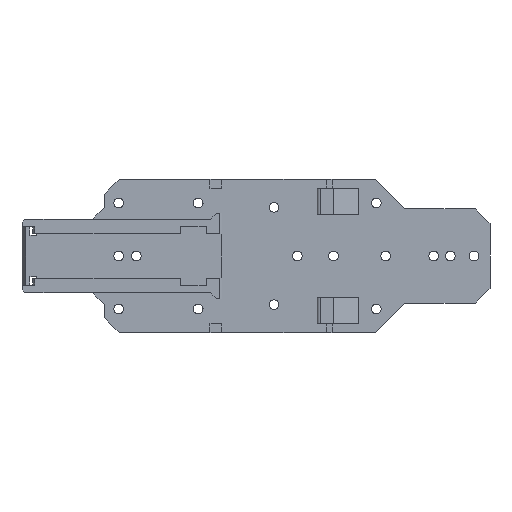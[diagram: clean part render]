
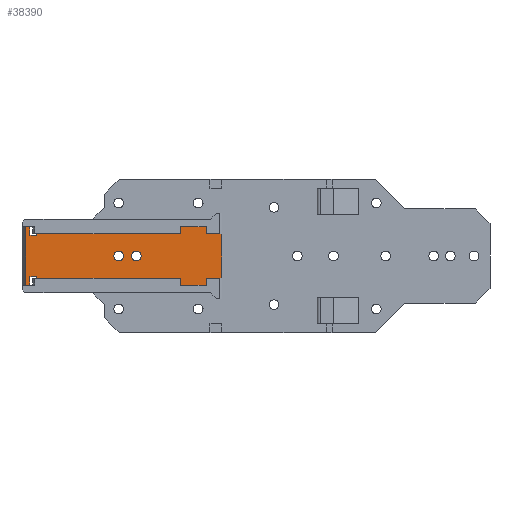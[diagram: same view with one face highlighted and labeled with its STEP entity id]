
A CAD part, front view. The second image highlights one B-rep face of the part: STEP entity #38390.
In plain terms, the highlighted planar face has unit normal (0, -1, 0).
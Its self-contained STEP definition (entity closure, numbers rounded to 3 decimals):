
#1040=CARTESIAN_POINT('',(549.253,285.963,
18.85));
#1050=VERTEX_POINT('',#1040);
#1380=CARTESIAN_POINT('',(563.253,285.963,
18.85));
#1390=VERTEX_POINT('',#1380);
#1420=CARTESIAN_POINT('',(0.,285.963,18.85));
#1430=DIRECTION('',(1.,0.,0.));
#1440=VECTOR('',#1430,1.);
#1450=LINE('',#1420,#1440);
#1460=EDGE_CURVE('',#1050,#1390,#1450,.T.);
#6620=CARTESIAN_POINT('',(614.407,285.963,
15.895));
#6630=VERTEX_POINT('',#6620);
#6660=CARTESIAN_POINT('',(0.,285.963,15.895));
#6670=DIRECTION('',(-1.,0.,0.));
#6680=VECTOR('',#6670,1.);
#6690=LINE('',#6660,#6680);
#6700=CARTESIAN_POINT('',(612.207,285.963,
15.895));
#6710=VERTEX_POINT('',#6700);
#6720=EDGE_CURVE('',#6630,#6710,#6690,.T.);
#23770=CARTESIAN_POINT('',(612.207,285.963,0.));
#23780=DIRECTION('',(0.,0.,1.));
#23790=VECTOR('',#23780,1.);
#23800=LINE('',#23770,#23790);
#23810=CARTESIAN_POINT('',(612.207,285.963,
18.75));
#23820=VERTEX_POINT('',#23810);
#23830=EDGE_CURVE('',#6710,#23820,#23800,.T.);
#24330=CARTESIAN_POINT('',(549.253,285.963,0.));
#24340=DIRECTION('',(0.,0.,1.));
#24350=VECTOR('',#24340,1.);
#24360=LINE('',#24330,#24350);
#24370=CARTESIAN_POINT('',(549.253,285.963,
-1.15));
#24380=VERTEX_POINT('',#24370);
#24390=EDGE_CURVE('',#24380,#1050,#24360,.T.);
#27520=CARTESIAN_POINT('',(563.253,285.963,
1.25));
#27530=VERTEX_POINT('',#27520);
#27680=CARTESIAN_POINT('',(563.253,285.963,
-1.15));
#27690=VERTEX_POINT('',#27680);
#27720=CARTESIAN_POINT('',(563.253,285.963,0.));
#27730=DIRECTION('',(0.,0.,-1.));
#27740=VECTOR('',#27730,1.);
#27750=LINE('',#27720,#27740);
#27760=EDGE_CURVE('',#27530,#27690,#27750,.T.);
#28070=CARTESIAN_POINT('',(615.89,285.963,
-1.05));
#28080=VERTEX_POINT('',#28070);
#28110=CARTESIAN_POINT('',(615.89,285.963,0.));
#28120=DIRECTION('',(0.,0.,-1.));
#28130=VECTOR('',#28120,1.);
#28140=LINE('',#28110,#28130);
#28150=CARTESIAN_POINT('',(615.89,285.963,
18.75));
#28160=VERTEX_POINT('',#28150);
#28170=EDGE_CURVE('',#28160,#28080,#28140,.T.);
#32030=CARTESIAN_POINT('',(565.553,285.963,
-1.05));
#32040=VERTEX_POINT('',#32030);
#32120=CARTESIAN_POINT('',(565.553,285.963,
1.25));
#32130=VERTEX_POINT('',#32120);
#32160=CARTESIAN_POINT('',(565.553,285.963,0.));
#32170=DIRECTION('',(0.,0.,1.));
#32180=VECTOR('',#32170,1.);
#32190=LINE('',#32160,#32180);
#32200=EDGE_CURVE('',#32040,#32130,#32190,.T.);
#32410=CARTESIAN_POINT('',(565.553,285.963,
16.45));
#32420=VERTEX_POINT('',#32410);
#32500=CARTESIAN_POINT('',(565.553,285.963,
18.75));
#32510=VERTEX_POINT('',#32500);
#32540=CARTESIAN_POINT('',(565.553,285.963,0.));
#32550=DIRECTION('',(0.,0.,-1.));
#32560=VECTOR('',#32550,1.);
#32570=LINE('',#32540,#32560);
#32580=EDGE_CURVE('',#32510,#32420,#32570,.T.);
#36440=CARTESIAN_POINT('',(0.,285.963,-1.15));
#36450=DIRECTION('',(-1.,0.,0.));
#36460=VECTOR('',#36450,1.);
#36470=LINE('',#36440,#36460);
#36480=EDGE_CURVE('',#27690,#24380,#36470,.T.);
#36750=CARTESIAN_POINT('',(0.,285.963,16.45));
#36760=DIRECTION('',(-1.,0.,0.));
#36770=VECTOR('',#36760,1.);
#36780=LINE('',#36750,#36770);
#36790=CARTESIAN_POINT('',(563.253,285.963,
16.45));
#36800=VERTEX_POINT('',#36790);
#36810=EDGE_CURVE('',#32420,#36800,#36780,.T.);
#37150=CARTESIAN_POINT('',(563.253,285.963,0.));
#37160=DIRECTION('',(0.,0.,-1.));
#37170=VECTOR('',#37160,1.);
#37180=LINE('',#37150,#37170);
#37190=EDGE_CURVE('',#1390,#36800,#37180,.T.);
#37310=CARTESIAN_POINT('',(572.647,285.963,
11.888));
#37320=DIRECTION('',(-0.,-1.,0.));
#37330=DIRECTION('',(-1.,0.,0.));
#37340=AXIS2_PLACEMENT_3D('',#37310,#37320,#37330);
#37350=PLANE('',#37340);
#37360=CARTESIAN_POINT('',(584.253,285.963,
8.85));
#37370=DIRECTION('',(0.,-1.,0.));
#37380=DIRECTION('',(0.,0.,-1.));
#37390=AXIS2_PLACEMENT_3D('',#37360,#37370,#37380);
#37400=CIRCLE('',#37390,1.65);
#37410=CARTESIAN_POINT('',(584.253,285.963,
7.2));
#37420=VERTEX_POINT('',#37410);
#37430=CARTESIAN_POINT('',(584.253,285.963,
10.5));
#37440=VERTEX_POINT('',#37430);
#37450=EDGE_CURVE('',#37420,#37440,#37400,.T.);
#37460=ORIENTED_EDGE('',*,*,#37450,.F.);
#37470=EDGE_CURVE('',#37440,#37420,#37400,.T.);
#37480=ORIENTED_EDGE('',*,*,#37470,.F.);
#37490=EDGE_LOOP('',(#37480,#37460));
#37500=FACE_BOUND('',#37490,.T.);
#37510=CARTESIAN_POINT('',(578.253,285.963,
8.85));
#37520=DIRECTION('',(0.,-1.,0.));
#37530=DIRECTION('',(0.,0.,-1.));
#37540=AXIS2_PLACEMENT_3D('',#37510,#37520,#37530);
#37550=CIRCLE('',#37540,1.65);
#37560=CARTESIAN_POINT('',(578.253,285.963,
7.2));
#37570=VERTEX_POINT('',#37560);
#37580=CARTESIAN_POINT('',(578.253,285.963,
10.5));
#37590=VERTEX_POINT('',#37580);
#37600=EDGE_CURVE('',#37570,#37590,#37550,.T.);
#37610=ORIENTED_EDGE('',*,*,#37600,.F.);
#37620=EDGE_CURVE('',#37590,#37570,#37550,.T.);
#37630=ORIENTED_EDGE('',*,*,#37620,.F.);
#37640=EDGE_LOOP('',(#37630,#37610));
#37650=FACE_BOUND('',#37640,.T.);
#37660=ORIENTED_EDGE('',*,*,#37190,.F.);
#37670=ORIENTED_EDGE('',*,*,#36810,.T.);
#37680=ORIENTED_EDGE('',*,*,#32580,.T.);
#37690=CARTESIAN_POINT('',(0.,285.963,18.75));
#37700=DIRECTION('',(1.,0.,0.));
#37710=VECTOR('',#37700,1.);
#37720=LINE('',#37690,#37710);
#37730=EDGE_CURVE('',#32510,#23820,#37720,.T.);
#37740=ORIENTED_EDGE('',*,*,#37730,.F.);
#37750=ORIENTED_EDGE('',*,*,#23830,.T.);
#37760=ORIENTED_EDGE('',*,*,#6720,.T.);
#37770=CARTESIAN_POINT('',(614.407,285.963,0.));
#37780=DIRECTION('',(0.,0.,-1.));
#37790=VECTOR('',#37780,1.);
#37800=LINE('',#37770,#37790);
#37810=CARTESIAN_POINT('',(614.407,285.963,
18.75));
#37820=VERTEX_POINT('',#37810);
#37830=EDGE_CURVE('',#37820,#6630,#37800,.T.);
#37840=ORIENTED_EDGE('',*,*,#37830,.T.);
#37850=EDGE_CURVE('',#37820,#28160,#37720,.T.);
#37860=ORIENTED_EDGE('',*,*,#37850,.F.);
#37870=ORIENTED_EDGE('',*,*,#28170,.F.);
#37880=CARTESIAN_POINT('',(0.,285.963,-1.05));
#37890=DIRECTION('',(-1.,0.,0.));
#37900=VECTOR('',#37890,1.);
#37910=LINE('',#37880,#37900);
#37920=CARTESIAN_POINT('',(614.407,285.963,
-1.05));
#37930=VERTEX_POINT('',#37920);
#37940=EDGE_CURVE('',#28080,#37930,#37910,.T.);
#37950=ORIENTED_EDGE('',*,*,#37940,.F.);
#37960=CARTESIAN_POINT('',(614.407,285.963,0.));
#37970=DIRECTION('',(0.,0.,1.));
#37980=VECTOR('',#37970,1.);
#37990=LINE('',#37960,#37980);
#38000=CARTESIAN_POINT('',(614.407,285.963,
1.805));
#38010=VERTEX_POINT('',#38000);
#38020=EDGE_CURVE('',#37930,#38010,#37990,.T.);
#38030=ORIENTED_EDGE('',*,*,#38020,.F.);
#38040=CARTESIAN_POINT('',(0.,285.963,1.805));
#38050=DIRECTION('',(-1.,0.,0.));
#38060=VECTOR('',#38050,1.);
#38070=LINE('',#38040,#38060);
#38080=CARTESIAN_POINT('',(612.207,285.963,
1.805));
#38090=VERTEX_POINT('',#38080);
#38100=EDGE_CURVE('',#38010,#38090,#38070,.T.);
#38110=ORIENTED_EDGE('',*,*,#38100,.F.);
#38120=CARTESIAN_POINT('',(612.207,285.963,0.));
#38130=DIRECTION('',(0.,0.,-1.));
#38140=VECTOR('',#38130,1.);
#38150=LINE('',#38120,#38140);
#38160=CARTESIAN_POINT('',(612.207,285.963,
-1.05));
#38170=VERTEX_POINT('',#38160);
#38180=EDGE_CURVE('',#38090,#38170,#38150,.T.);
#38190=ORIENTED_EDGE('',*,*,#38180,.F.);
#38200=CARTESIAN_POINT('',(0.,285.963,-1.05));
#38210=DIRECTION('',(1.,0.,0.));
#38220=VECTOR('',#38210,1.);
#38230=LINE('',#38200,#38220);
#38240=EDGE_CURVE('',#32040,#38170,#38230,.T.);
#38250=ORIENTED_EDGE('',*,*,#38240,.T.);
#38260=ORIENTED_EDGE('',*,*,#32200,.F.);
#38270=CARTESIAN_POINT('',(0.,285.963,1.25));
#38280=DIRECTION('',(1.,0.,0.));
#38290=VECTOR('',#38280,1.);
#38300=LINE('',#38270,#38290);
#38310=EDGE_CURVE('',#27530,#32130,#38300,.T.);
#38320=ORIENTED_EDGE('',*,*,#38310,.T.);
#38330=ORIENTED_EDGE('',*,*,#27760,.F.);
#38340=ORIENTED_EDGE('',*,*,#36480,.F.);
#38350=ORIENTED_EDGE('',*,*,#24390,.F.);
#38360=ORIENTED_EDGE('',*,*,#1460,.F.);
#38370=EDGE_LOOP('',(#38360,#38350,#38340,#38330,#38320,#38260,#38250,
#38190,#38110,#38030,#37950,#37870,#37860,#37840,#37760,#37750,#37740,
#37680,#37670,#37660));
#38380=FACE_OUTER_BOUND('',#38370,.T.);
#38390=ADVANCED_FACE('',(#37500,#37650,#38380),#37350,.T.);
